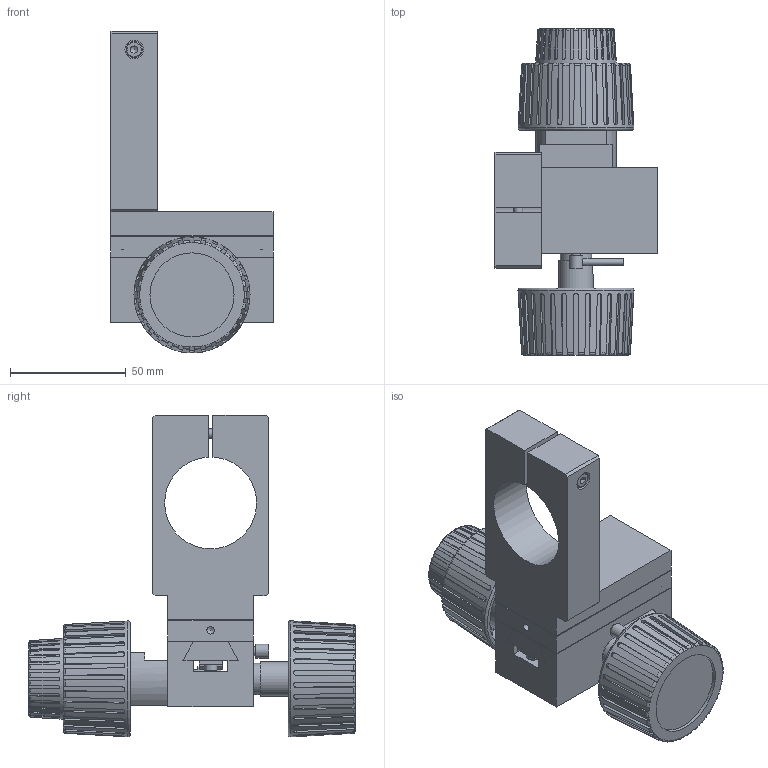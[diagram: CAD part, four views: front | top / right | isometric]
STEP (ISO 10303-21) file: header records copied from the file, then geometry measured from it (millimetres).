
FILE_DESCRIPTION(/* description */ (''),/* implementation_level */ '2;1');
FILE_NAME(/* name */ 'S:\Bureau-Technique\Dispositif\MA 154-5-018.stp',/* time_stamp */ '2018-10-01T13:05:10+02:00',/* author */ ('chu'),/* organization */ ('Marcel Aubert'),/* preprocessor_version */ 'ST-DEVELOPER v17.2',/* originating_system */ 'Autodesk Inventor 2019',/* authorisation */ '');
FILE_SCHEMA (('AUTOMOTIVE_DESIGN { 1 0 10303 214 3 1 1 }'));
Length unit declared in the file: millimetre
Products named in the file (1): Pièce2
Bounding box: 70 x 141.1 x 139.09 mm (x, y, z)
Volume: 236668.6 mm3; surface area: 87550.6 mm2
Topology: 12 solids, 44 shells, 1074 faces, 3074 edges, 2129 vertices
Faces by surface type: plane 656, cylinder 267, torus 76, cone 69, sphere 6
Full cylindrical faces by diameter (mm): 1.5 x3, 2.459 x8, 3 x13, 3.1 x2, 3.242 x17, 3.5 x2, 4 x7, 4.3 x1, 4.5 x4, 5 x10, 5.2 x1, 5.5 x8, 6 x10, 6.2 x1, 7 x4, 8 x3, 8.1 x1, 10 x2, 10.1 x2, 10.5 x11, 10.7 x1, 10.75 x1, 11.9 x1, 12 x1, 12.5 x1, 13.5 x1, 15 x3, 15.5 x8, 17.5 x1, 18 x2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
Entity records: 39863 total; most frequent: CARTESIAN_POINT 11195, ORIENTED_EDGE 6078, DIRECTION 5364, EDGE_CURVE 3039, VERTEX_POINT 2129, AXIS2_PLACEMENT_3D 2026, LINE 1312, VECTOR 1312
